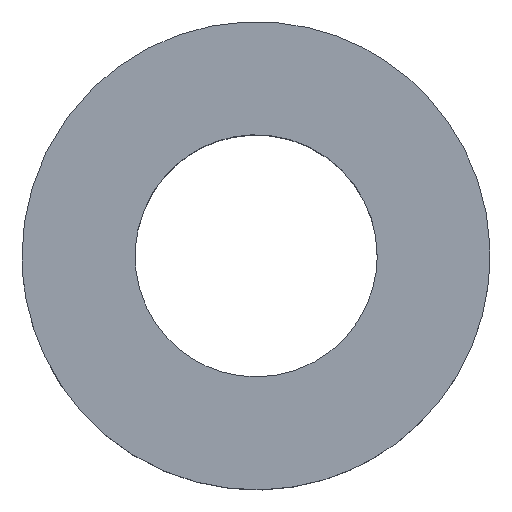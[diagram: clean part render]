
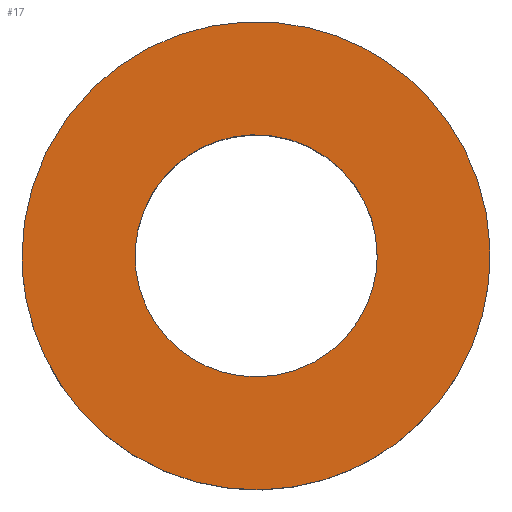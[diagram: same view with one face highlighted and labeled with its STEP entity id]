
A CAD part, top view. The second image highlights one B-rep face of the part: STEP entity #17.
In plain terms, the highlighted free-form (B-spline) face has degree [1, 1] with [2, 2] control points.
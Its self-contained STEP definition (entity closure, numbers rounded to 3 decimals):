
#17 = ADVANCED_FACE('',(#18,#32),#46,.F.);
#18 = FACE_BOUND('',#19,.T.);
#19 = EDGE_LOOP('',(#20));
#20 = ORIENTED_EDGE('',*,*,#21,.F.);
#21 = EDGE_CURVE('',#22,#22,#24,.T.);
#22 = VERTEX_POINT('',#23);
#23 = CARTESIAN_POINT('',(1.125,0.,1.));
#24 = ( BOUNDED_CURVE() B_SPLINE_CURVE(2,(#25,#26,#27,#28,#29,#30,#31),
.UNSPECIFIED.,.T.,.F.) B_SPLINE_CURVE_WITH_KNOTS((1,2,2,2,2,1),(
    -2.094,0.,2.094,4.189,6.283,
8.378),.UNSPECIFIED.) CURVE() GEOMETRIC_REPRESENTATION_ITEM() 
RATIONAL_B_SPLINE_CURVE((1.,0.5,1.,0.5,1.,0.5,1.)) REPRESENTATION_ITEM(
  '') );
#25 = CARTESIAN_POINT('',(1.125,0.,1.));
#26 = CARTESIAN_POINT('',(1.125,1.949,1.));
#27 = CARTESIAN_POINT('',(-0.563,0.974,1.));
#28 = CARTESIAN_POINT('',(-2.25,0.,1.));
#29 = CARTESIAN_POINT('',(-0.563,-0.974,1.));
#30 = CARTESIAN_POINT('',(1.125,-1.949,1.));
#31 = CARTESIAN_POINT('',(1.125,0.,1.));
#32 = FACE_BOUND('',#33,.T.);
#33 = EDGE_LOOP('',(#34));
#34 = ORIENTED_EDGE('',*,*,#35,.F.);
#35 = EDGE_CURVE('',#36,#36,#38,.T.);
#36 = VERTEX_POINT('',#37);
#37 = CARTESIAN_POINT('',(-2.175,0.,1.));
#38 = ( BOUNDED_CURVE() B_SPLINE_CURVE(2,(#39,#40,#41,#42,#43,#44,#45),
.UNSPECIFIED.,.T.,.F.) B_SPLINE_CURVE_WITH_KNOTS((1,2,2,2,2,1),(
    -2.094,0.,2.094,4.189,6.283,
8.378),.UNSPECIFIED.) CURVE() GEOMETRIC_REPRESENTATION_ITEM() 
RATIONAL_B_SPLINE_CURVE((1.,0.5,1.,0.5,1.,0.5,1.)) REPRESENTATION_ITEM(
  '') );
#39 = CARTESIAN_POINT('',(-2.175,0.,1.));
#40 = CARTESIAN_POINT('',(-2.175,3.767,1.));
#41 = CARTESIAN_POINT('',(1.088,1.884,1.));
#42 = CARTESIAN_POINT('',(4.35,0.,1.));
#43 = CARTESIAN_POINT('',(1.088,-1.884,1.));
#44 = CARTESIAN_POINT('',(-2.175,-3.767,1.));
#45 = CARTESIAN_POINT('',(-2.175,0.,1.));
#46 = B_SPLINE_SURFACE_WITH_KNOTS('',1,1,(
    (#47,#48)
    ,(#49,#50
    )),.UNSPECIFIED.,.F.,.F.,.F.,(2,2),(2,2),(-2.175,2.175),(-2.175,
    2.175),.PIECEWISE_BEZIER_KNOTS.);
#47 = CARTESIAN_POINT('',(2.175,-2.175,1.));
#48 = CARTESIAN_POINT('',(2.175,2.175,1.));
#49 = CARTESIAN_POINT('',(-2.175,-2.175,1.));
#50 = CARTESIAN_POINT('',(-2.175,2.175,1.));
